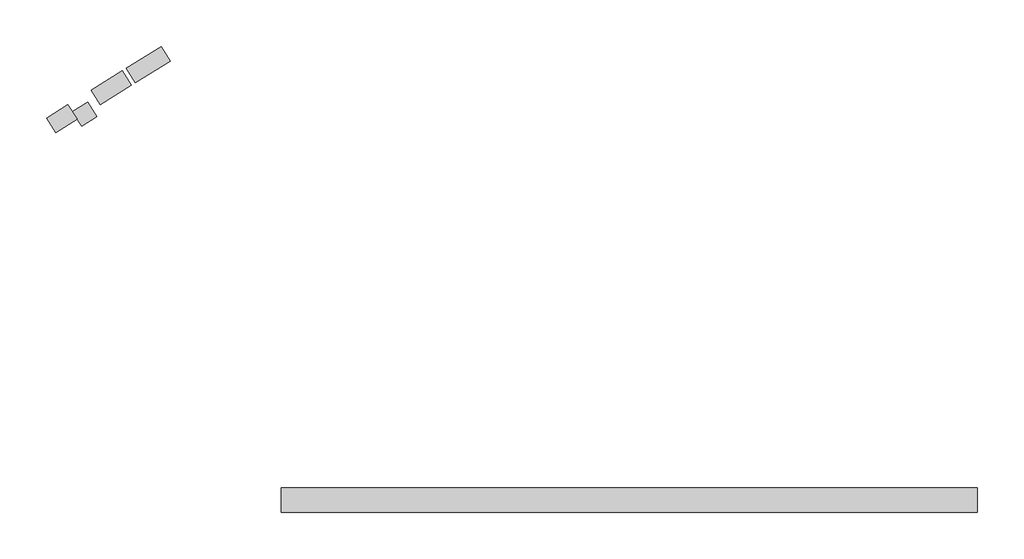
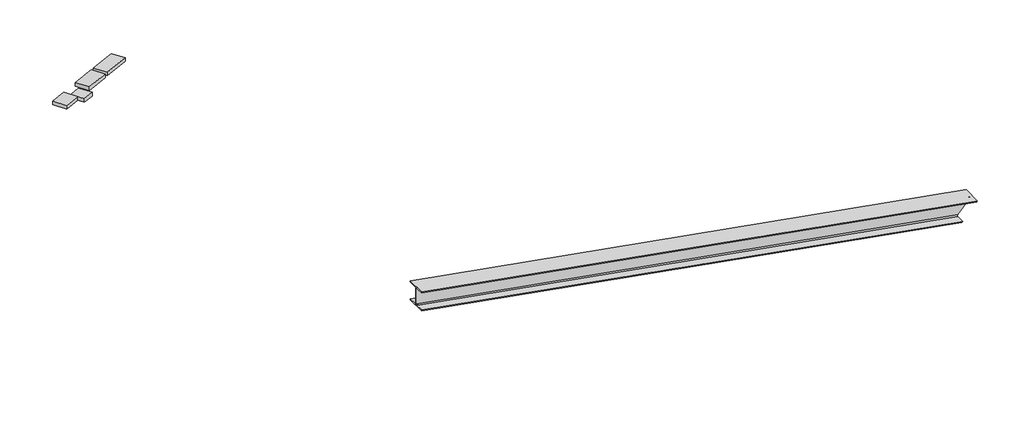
# One storey: 5 beams.
"""IFC4 building model written with IfcOpenShell, lengths in millimetres."""

from ifc_helpers import new_model, si_unit, frame, origin, place, context, project, spatial, polyline, ellipse_curve, outline, extrude, faceted_brep, element, save
from ifc_brep_helpers import plane_surface, revolved_surface, advanced_brep

model = new_model("IFC4")

# Units and contexts
model_context = context("Model", 3, world=origin())
ifc_project = project(units=[si_unit("LENGTHUNIT", "METRE", prefix="MILLI")], contexts=[model_context])

# Site, building, storey
site = spatial("IfcSite", under=ifc_project)
building = spatial("IfcBuilding", under=site)
storey = spatial("IfcBuildingStorey", under=building, Name="Ground Floor Plan Showing Roof Structure Over", Elevation=4990.0)

# Beams
placement = place(None, origin())
element("IfcBeam", 1, ObjectType="Graded Timber : 38x140", at=placement, inside=storey, context=model_context, shape_type="Brep", body=[
    faceted_brep([(-36340.0758988, 14592.0050027, 4693.9260103), (-36340.0758988, 14592.0050027, 4655.5035125), (-36265.8871999, 14473.2782705, 4655.5035121), (-36265.8871999, 14473.2782705, 4693.9260099), (-36053.7706792, 14770.9083597, 4643.4426754), (-36053.7706792, 14770.9083597, 4605.0201775), (-35979.5819803, 14652.1816275, 4605.0201772), (-35979.5819803, 14652.1816275, 4643.442675)], [[[0, 1, 2, 3]], [[0, 4, 5, 1]], [[1, 5, 6, 2]], [[2, 6, 7, 3]], [[3, 7, 4, 0]], [[4, 7, 6, 5]]]),
])
element("IfcBeam", 2, ObjectType="Graded Timber : 38x140", at=placement, inside=storey, context=model_context, shape_type="Brep", body=[
    faceted_brep([(-36991.6627785, 14184.8483315, 4809.01261), (-36816.1853043, 14294.4988271, 4778.3538085), (-36816.1853043, 14294.4988271, 4739.938952), (-36991.6627785, 14184.8483315, 4770.5977535), (-36917.4740796, 14066.1215992, 4809.0126097), (-36741.9966054, 14175.7720948, 4778.3538082), (-36741.9966054, 14175.7720948, 4739.9389516), (-36917.4740796, 14066.1215992, 4770.5977531)], [[[0, 1, 2, 3]], [[4, 5, 1, 0]], [[3, 2, 6, 7]], [[0, 3, 7, 4]], [[7, 6, 5, 4]], [[2, 1, 5, 6]]]),
])
element("IfcBeam", 3, ObjectType="Graded Timber : 38x140", at=placement, inside=storey, context=model_context, shape_type="Brep", body=[
    faceted_brep([(-36626.3810937, 14413.1016611, 4744.4093409), (-36372.3017018, 14571.8680861, 4699.6082888), (-36372.3017018, 14571.8680861, 4661.185791), (-36626.3810937, 14413.1016611, 4705.986843), (-36552.1923948, 14294.3749289, 4744.4093405), (-36298.1130029, 14453.1413538, 4699.6082885), (-36298.1130029, 14453.1413538, 4661.1857907), (-36552.1923948, 14294.3749289, 4705.9868427)], [[[0, 1, 2, 3]], [[4, 5, 1, 0]], [[2, 1, 5, 6]], [[3, 2, 6, 7]], [[7, 6, 5, 4]], [[0, 3, 7, 4]]]),
])
element("IfcBeam", 4, ObjectType="Graded Timber : 38x140", at=placement, inside=storey, context=model_context, shape_type="SweptSolid", body=[
    extrude(outline(polyline([(529.1337265, 0.0), (678.5901914, 0.0), (672.9079085, -38.0), (523.4514435, -38.0000001), (529.1337265, 0.0)])), frame((-37148.7221397, 13839.1311907, 4816.5859899), z_axis=(-0.529919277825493, 0.8480480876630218, 0.0), x_axis=(0.8387228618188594, 0.5240922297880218, -0.14788947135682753)), (0.0, 0.0, 1.0), 140.0),
])
element("IfcBeam", 5, ObjectType="UKC-UK Columns : UKC203x203x46", at=placement, inside=storey, context=model_context, shape_type="AdvancedBrep", body=[
    advanced_brep(
    [(-29517.1802309, 11153.6549517, 2848.4443763), (-29517.1802309, 11065.6549517, 2848.4443763), (-29509.0583105, 11055.4549517, 2857.369688), (-29381.018623, 11055.4549517, 2998.0746012), (-29372.8967025, 11065.6549517, 3006.9999129), (-29372.8967025, 11153.6549517, 3006.9999129), (-29364.1377686, 11153.6549517, 3016.625249), (-29364.1377686, 10950.0549517, 3016.625249), (-29372.8967025, 10950.0549517, 3006.9999129), (-29372.8967025, 11038.0549517, 3006.9999129), (-29381.018623, 11048.2549517, 2998.0746012), (-29509.0583105, 11048.2549517, 2857.369688), (-29517.1802309, 11038.0549517, 2848.4443763), (-29517.1802309, 10950.0549517, 2848.4443763), (-29525.9391648, 10950.0549517, 2838.8190402), (-29525.9391648, 11153.6549517, 2838.8190402), (-35068.9558263, 11153.6549517, 3827.3075719), (-35068.9558263, 11153.6549517, 3816.1379014), (-35068.9558263, 10950.0549517, 3816.1379014), (-35068.9558263, 10950.0549517, 3827.3075719), (-35068.9558263, 11038.0549517, 3827.3075719), (-35068.9558263, 11048.2549517, 3837.6649027), (-35068.9558263, 11048.2549517, 4000.9451769), (-35068.9558263, 11038.0549517, 4011.3025077), (-35068.9558263, 10950.0549517, 4011.3025077), (-35068.9558263, 10950.0549517, 4022.4721782), (-35068.9558263, 11153.6549517, 4022.4721782), (-35068.9558263, 11153.6549517, 4011.3025077), (-35068.9558263, 11065.6549517, 4011.3025077), (-35068.9558263, 11055.4549517, 4000.9451769), (-35068.9558263, 11055.4549517, 3837.6649027), (-35068.9558263, 11065.6549517, 3827.3075719)],
    [
        (0, 1),
        (1, 2, ellipse_curve(frame((-29509.0583105, 11065.6549517, 2857.369688), z_axis=(-0.739609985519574, 0.0, 0.6730357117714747), x_axis=(-0.6730357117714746, 0.0, -0.7396099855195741)), 12.0675922, 10.2)),
        (2, 3),
        (3, 4, ellipse_curve(frame((-29381.018623, 11065.6549517, 2998.0746012), z_axis=(-0.739609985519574, 0.0, 0.6730357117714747), x_axis=(-0.6730357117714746, 0.0, -0.7396099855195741)), 12.0675922, 10.2)),
        (4, 5),
        (5, 6),
        (6, 7),
        (7, 8),
        (8, 9),
        (9, 10, ellipse_curve(frame((-29381.018623, 11038.0549517, 2998.0746012), z_axis=(-0.739609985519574, 0.0, 0.6730357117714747), x_axis=(-0.6730357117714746, 0.0, -0.7396099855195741)), 12.0675922, 10.2)),
        (10, 11),
        (11, 12, ellipse_curve(frame((-29509.0583105, 11038.0549517, 2857.369688), z_axis=(-0.739609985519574, 0.0, 0.6730357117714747), x_axis=(-0.6730357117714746, 0.0, -0.7396099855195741)), 12.0675922, 10.2)),
        (12, 13),
        (13, 14),
        (14, 15),
        (15, 0),
        (16, 17),
        (17, 18),
        (18, 19),
        (19, 20),
        (20, 21, ellipse_curve(frame((-35068.9558263, 11038.0549517, 3837.6649027), z_axis=(1.0, 0.0, 0.0), x_axis=(0.0, 0.0, 1.0)), 10.3573308, 10.2)),
        (21, 22),
        (22, 23, ellipse_curve(frame((-35068.9558263, 11038.0549517, 4000.9451769), z_axis=(1.0, 0.0, 0.0), x_axis=(0.0, 0.0, 1.0)), 10.3573308, 10.2)),
        (23, 24),
        (24, 25),
        (25, 26),
        (26, 27),
        (27, 28),
        (28, 29, ellipse_curve(frame((-35068.9558263, 11065.6549517, 4000.9451769), z_axis=(1.0, 0.0, 0.0), x_axis=(0.0, 0.0, 1.0)), 10.3573308, 10.2)),
        (29, 30),
        (30, 31, ellipse_curve(frame((-35068.9558263, 11065.6549517, 3837.6649027), z_axis=(1.0, 0.0, 0.0), x_axis=(0.0, 0.0, 1.0)), 10.3573308, 10.2)),
        (31, 16),
        (0, 16),
        (31, 1),
        (30, 2),
        (29, 3),
        (28, 4),
        (27, 5),
        (26, 6),
        (25, 7),
        (24, 8),
        (23, 9),
        (22, 10),
        (21, 11),
        (20, 12),
        (19, 13),
        (18, 14),
        (17, 15),
    ],
    [
        plane_surface(frame((-29532.7683786, 15854.423117, 2831.3143051), z_axis=(0.739609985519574, 0.0, -0.6730357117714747), x_axis=(-0.6730357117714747, 0.0, -0.739609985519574))),
        plane_surface(frame((-35068.9558263, 15714.423117, 3862.0), z_axis=(-1.0, 0.0, 0.0), x_axis=(0.0, 0.0, -1.0))),
        plane_surface(frame((-29312.7092788, 11153.6549517, 2812.3930111), z_axis=(0.1736370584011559, 0.0, 0.9848097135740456), x_axis=(-0.9848097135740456, 0.0, 0.1736370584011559))),
        revolved_surface(polyline([(-35070.726924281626, 11055.4549517, 3837.9771745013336), (-29502.707487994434, 11055.4549517, 2856.2499405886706)]), (-29310.9381808, 11065.6549517, 2822.4380702), (-0.9848097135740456, 0.0, 0.1736370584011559)),
        plane_surface(frame((-29310.9381808, 11055.4549517, 2822.4380702), z_axis=(0.0, 1.0, 0.0), x_axis=(-0.9848097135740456, 0.0, 0.1736370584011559))),
        revolved_surface(polyline([(-35070.72692430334, 11055.4549517, 4001.2574485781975), (-29374.667800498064, 11055.4549517, 2996.95485376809)]), (-29283.0173419, 11065.6549517, 2980.7954721), (-0.9848097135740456, 0.0, 0.1736370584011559)),
        plane_surface(frame((-29281.2462439, 11065.6549517, 2990.8405312), z_axis=(-0.1736370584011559, 0.0, -0.9848097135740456), x_axis=(-0.9848097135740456, 0.0, 0.1736370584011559))),
        plane_surface(frame((-29281.2462439, 11153.6549517, 2990.8405312), z_axis=(0.0, 1.0, 0.0), x_axis=(-0.9848097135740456, 0.0, 0.1736370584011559))),
        plane_surface(frame((-29279.3362362, 11153.6549517, 3001.673438), z_axis=(0.1736370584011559, 0.0, 0.9848097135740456), x_axis=(-0.9848097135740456, 0.0, 0.1736370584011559))),
        plane_surface(frame((-29279.3362362, 10950.0549517, 3001.673438), z_axis=(0.0, -1.0, 0.0), x_axis=(-0.9848097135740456, 0.0, 0.1736370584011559))),
        plane_surface(frame((-29281.2462439, 10950.0549517, 2990.8405312), z_axis=(-0.1736370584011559, 0.0, -0.9848097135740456), x_axis=(-0.9848097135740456, 0.0, 0.1736370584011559))),
        revolved_surface(polyline([(-35070.72692430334, 11027.8549517, 4001.2574485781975), (-29374.667800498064, 11027.8549517, 2996.95485376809)]), (-29283.0173419, 11038.0549517, 2980.7954721), (-0.9848097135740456, 0.0, 0.1736370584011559)),
        plane_surface(frame((-29283.0173419, 11048.2549517, 2980.7954721), z_axis=(0.0, -1.0, 0.0), x_axis=(-0.9848097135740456, 0.0, 0.1736370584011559))),
        revolved_surface(polyline([(-35070.726924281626, 11027.8549517, 3837.9771745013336), (-29502.707487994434, 11027.8549517, 2856.2499405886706)]), (-29310.9381808, 11038.0549517, 2822.4380702), (-0.9848097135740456, 0.0, 0.1736370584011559)),
        plane_surface(frame((-29312.7092788, 11038.0549517, 2812.3930111), z_axis=(0.1736370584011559, 0.0, 0.9848097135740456), x_axis=(-0.9848097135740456, 0.0, 0.1736370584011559))),
        plane_surface(frame((-29312.7092788, 10950.0549517, 2812.3930111), z_axis=(0.0, -1.0, 0.0), x_axis=(-0.9848097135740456, 0.0, 0.1736370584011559))),
        plane_surface(frame((-29314.6192865, 10950.0549517, 2801.5601042), z_axis=(-0.1736370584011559, 0.0, -0.9848097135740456), x_axis=(-0.9848097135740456, 0.0, 0.1736370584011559))),
        plane_surface(frame((-29314.6192865, 11153.6549517, 2801.5601042), z_axis=(0.0, 1.0, 0.0), x_axis=(-0.9848097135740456, 0.0, 0.1736370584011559))),
    ],
    [
        (0, [[1, 2, 3, 4, 5, 6, 7, 8, 9, 10, 11, 12, 13, 14, 15, 16]]),
        (1, [[17, 18, 19, 20, 21, 22, 23, 24, 25, 26, 27, 28, 29, 30, 31, 32]]),
        (2, [[33, -32, 34, -1]]),
        (3, [[-34, -31, 35, -2]]),
        (4, [[-35, -30, 36, -3]]),
        (5, [[-36, -29, 37, -4]]),
        (6, [[-37, -28, 38, -5]]),
        (7, [[-38, -27, 39, -6]]),
        (8, [[-39, -26, 40, -7]]),
        (9, [[-40, -25, 41, -8]]),
        (10, [[-41, -24, 42, -9]]),
        (11, [[-42, -23, 43, -10]]),
        (12, [[-43, -22, 44, -11]]),
        (13, [[-44, -21, 45, -12]]),
        (14, [[-45, -20, 46, -13]]),
        (15, [[-46, -19, 47, -14]]),
        (16, [[-47, -18, 48, -15]]),
        (17, [[-48, -17, -33, -16]]),
    ],
),
])

save(model, "model.ifc")
